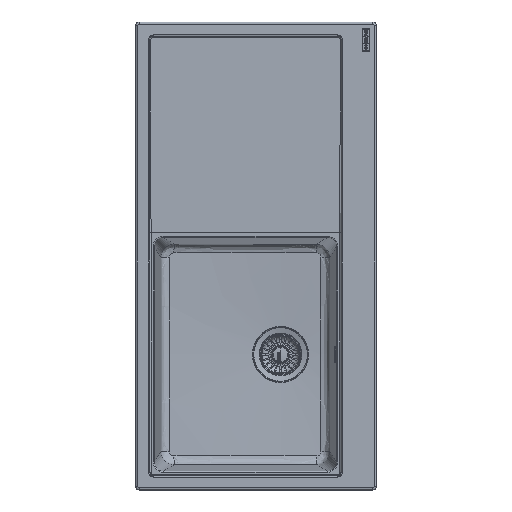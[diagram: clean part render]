
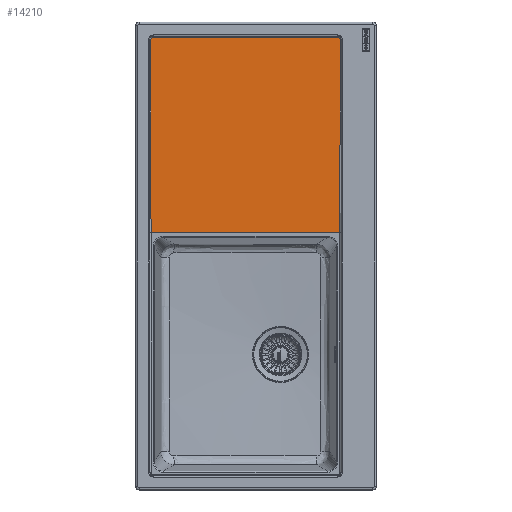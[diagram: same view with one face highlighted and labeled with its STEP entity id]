
A CAD part, top view. The second image highlights one B-rep face of the part: STEP entity #14210.
In plain terms, the highlighted planar face has unit normal (0, -0.009, 1).
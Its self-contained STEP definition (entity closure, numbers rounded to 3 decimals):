
#26=(
BOUNDED_CURVE()
B_SPLINE_CURVE(2,(#91595,#91596,#91597,#91598,#91599),.UNSPECIFIED.,.F.,
 .F.)
B_SPLINE_CURVE_WITH_KNOTS((3,2,3),(-10.345,-0.004,
0.),.UNSPECIFIED.)
CURVE()
GEOMETRIC_REPRESENTATION_ITEM()
RATIONAL_B_SPLINE_CURVE((1.,0.707,1.,1.,1.))
REPRESENTATION_ITEM('')
);
#27=(
BOUNDED_CURVE()
B_SPLINE_CURVE(2,(#91614,#91615,#91616,#91617,#91618),.UNSPECIFIED.,.F.,
 .F.)
B_SPLINE_CURVE_WITH_KNOTS((3,2,3),(-10.345,-10.341,
0.),.UNSPECIFIED.)
CURVE()
GEOMETRIC_REPRESENTATION_ITEM()
RATIONAL_B_SPLINE_CURVE((1.,1.,1.,0.707,1.))
REPRESENTATION_ITEM('')
);
#14210=ADVANCED_FACE('',(#16272),#41864,.T.);
#16272=FACE_OUTER_BOUND('',#18402,.T.);
#18402=EDGE_LOOP('',(#25822,#25823,#25824,#25825,#25826,#25827));
#25822=ORIENTED_EDGE('',*,*,#33271,.T.);
#25823=ORIENTED_EDGE('',*,*,#33274,.F.);
#25824=ORIENTED_EDGE('',*,*,#33278,.T.);
#25825=ORIENTED_EDGE('',*,*,#33292,.T.);
#25826=ORIENTED_EDGE('',*,*,#33265,.T.);
#25827=ORIENTED_EDGE('',*,*,#33269,.F.);
#33265=EDGE_CURVE('',#40063,#40062,#36996,.T.);
#33269=EDGE_CURVE('',#40065,#40062,#26,.T.);
#33271=EDGE_CURVE('',#40065,#40066,#36998,.T.);
#33274=EDGE_CURVE('',#40068,#40066,#27,.T.);
#33278=EDGE_CURVE('',#40068,#40070,#37002,.T.);
#33292=EDGE_CURVE('',#40070,#40063,#37007,.T.);
#36996=B_SPLINE_CURVE_WITH_KNOTS('',1,(#91585,#91586),.UNSPECIFIED.,.F.,
 .F.,(2,2),(-411.575,0.),.UNSPECIFIED.);
#36998=B_SPLINE_CURVE_WITH_KNOTS('',1,(#91603,#91604),.UNSPECIFIED.,.F.,
 .F.,(2,2),(-394.,0.),.UNSPECIFIED.);
#37002=B_SPLINE_CURVE_WITH_KNOTS('',1,(#91626,#91627),.UNSPECIFIED.,.F.,
 .F.,(2,2),(0.,411.575),.UNSPECIFIED.);
#37007=B_SPLINE_CURVE_WITH_KNOTS('',1,(#91663,#91664),.UNSPECIFIED.,.F.,
 .F.,(2,2),(-403.669,0.),.UNSPECIFIED.);
#40062=VERTEX_POINT('',#90773);
#40063=VERTEX_POINT('',#90774);
#40065=VERTEX_POINT('',#90776);
#40066=VERTEX_POINT('',#90777);
#40068=VERTEX_POINT('',#90779);
#40070=VERTEX_POINT('',#90781);
#41864=PLANE('',#44436);
#44436=AXIS2_PLACEMENT_3D('',#84876,#49890,$);
#49890=DIRECTION('',(0.,-0.009,1.));
#84876=CARTESIAN_POINT('',(-277.225,508.992,2.281));
#90773=CARTESIAN_POINT('',(167.671,462.023,1.843));
#90774=CARTESIAN_POINT('',(167.335,50.466,-1.996));
#90776=CARTESIAN_POINT('',(162.5,467.198,1.891));
#90777=CARTESIAN_POINT('',(-231.5,467.198,1.891));
#90779=CARTESIAN_POINT('',(-236.671,462.023,1.843));
#90781=CARTESIAN_POINT('',(-236.335,50.466,-1.996));
#91585=CARTESIAN_POINT('',(167.335,50.466,-1.996));
#91586=CARTESIAN_POINT('',(167.671,462.023,1.843));
#91595=CARTESIAN_POINT('',(162.5,467.198,1.891));
#91596=CARTESIAN_POINT('',(167.671,467.198,1.891));
#91597=CARTESIAN_POINT('',(167.671,462.028,1.843));
#91598=CARTESIAN_POINT('',(167.671,462.025,1.843));
#91599=CARTESIAN_POINT('',(167.671,462.023,1.843));
#91603=CARTESIAN_POINT('',(162.5,467.198,1.891));
#91604=CARTESIAN_POINT('',(-231.5,467.198,1.891));
#91614=CARTESIAN_POINT('',(-236.671,462.023,1.843));
#91615=CARTESIAN_POINT('',(-236.671,462.025,1.843));
#91616=CARTESIAN_POINT('',(-236.671,462.028,1.843));
#91617=CARTESIAN_POINT('',(-236.671,467.198,1.891));
#91618=CARTESIAN_POINT('',(-231.5,467.198,1.891));
#91626=CARTESIAN_POINT('',(-236.671,462.023,1.843));
#91627=CARTESIAN_POINT('',(-236.335,50.466,-1.996));
#91663=CARTESIAN_POINT('',(-236.335,50.466,-1.996));
#91664=CARTESIAN_POINT('',(167.335,50.466,-1.996));
